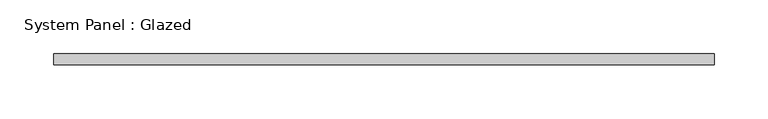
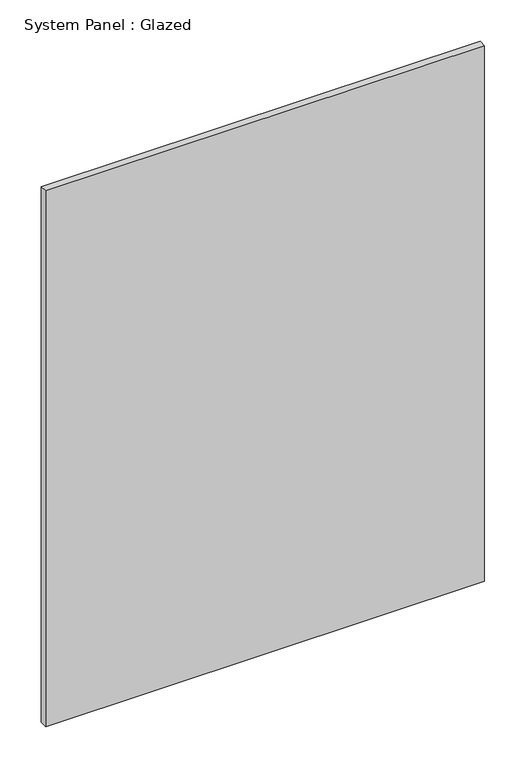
"""IFC4 building model written with IfcOpenShell, lengths in millimetres: plate geometry, System Panel : Glazed."""

from ifc_helpers import new_model, si_unit, origin, origin_with_axes, place, context, project, spatial, polyline, outline, extrude, source, transform, mapped, element, save


def system_panel_glazed_c627329a(model_context):
    return source(origin(), model_context, "Body", "SweptSolid", [
        extrude(outline(polyline([(305.9377019, -5.0), (-305.9377019, -5.0), (-305.9377019, 5.0), (305.9377019, 5.0), (305.9377019, -5.0)])), origin_with_axes(), (0.0, 0.0, 1.0), 790.0),
    ])


if __name__ == "__main__":
    model = new_model("IFC4")
    model_context = context("Model", 3, world=origin())
    ifc_project = project(units=[si_unit("LENGTHUNIT", "METRE", prefix="MILLI")], contexts=[model_context])
    site = spatial("IfcSite", under=ifc_project)
    building = spatial("IfcBuilding", under=site)
    placement = place(None, origin())
    system_panel_glazed_shape = system_panel_glazed_c627329a(model_context)
    element("IfcPlate", 1, ObjectType="System Panel : Glazed", at=placement, inside=building, context=model_context, shape_type="MappedRepresentation", body=[
        mapped(system_panel_glazed_shape, transform((0.0, 0.0, 0.0), x_axis=(1.0, 0.0, 0.0), y_axis=(0.0, 1.0, 0.0), z_axis=(0.0, 0.0, 1.0))),
    ])
    save(model, "model.ifc")
